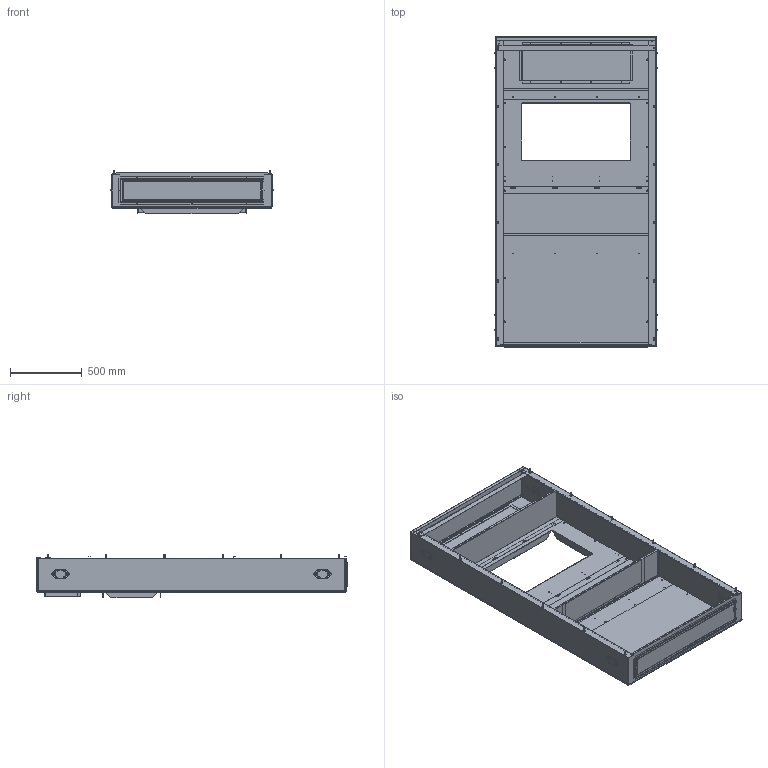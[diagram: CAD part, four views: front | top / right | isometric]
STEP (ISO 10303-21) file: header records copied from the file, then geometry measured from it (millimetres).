
FILE_DESCRIPTION (( 'STEP AP214' ), '1' );
FILE_NAME ('TCURBT3642.STEP', '2017-06-14T19:10:43', ( 'BMC' ), ( 'Bard Manufacturing Co., Inc.' ), 'SwSTEP 2.0', 'SolidWorks 2017', '' );
FILE_SCHEMA (( 'AUTOMOTIVE_DESIGN' ));
Length unit declared in the file: inch
Products named in the file (1): TCURBT3642
Bounding box: 1131.93 x 2166.4 x 300.22 mm (x, y, z)
Volume: 8521555.7 mm3; surface area: 12862115.9 mm2
Topology: 59 solids, 59 shells, 3438 faces, 8362 edges, 4812 vertices
Faces by surface type: plane 1078, cylinder 948, cone 688, bspline 528, torus 180, sphere 16
Entity records: 180094 total; most frequent: CARTESIAN_POINT 57253, ORIENTED_EDGE 16148, DIRECTION 15872, EDGE_CURVE 8074, AXIS2_PLACEMENT_3D 6019, VERTEX_POINT 4812, EDGE_LOOP 4074, LINE 3834
